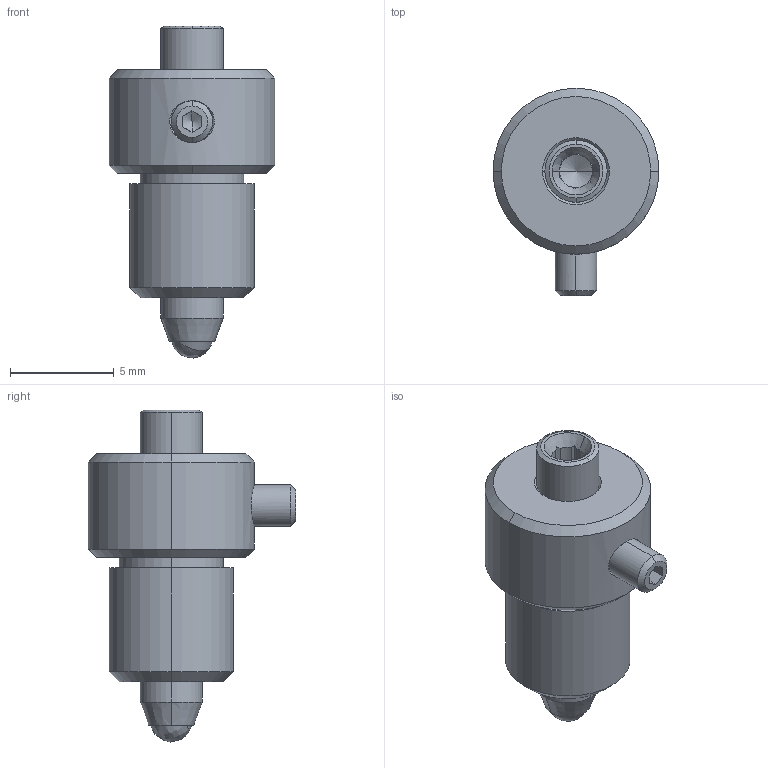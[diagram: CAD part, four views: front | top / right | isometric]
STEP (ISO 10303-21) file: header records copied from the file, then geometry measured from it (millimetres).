
FILE_DESCRIPTION (( 'STEP AP203' ), '1' );
FILE_NAME ('9SH137MN.STEP', '2007-11-15T09:03:08', ( 'STANDA' ), ( '' ), 'SwSTEP 2.0', 'SolidWorks 2003240', '' );
FILE_SCHEMA (( 'CONFIG_CONTROL_DESIGN' ));
Length unit declared in the file: millimetre
Products named in the file (1): 9SH137MN
Bounding box: 8 x 10 x 16.01 mm (x, y, z)
Volume: 431.1 mm3; surface area: 434.3 mm2
Topology: 1 solids, 2 shells, 80 faces, 192 edges, 119 vertices
Faces by surface type: plane 33, cone 24, cylinder 19, bspline 4
Entity records: 2883 total; most frequent: CARTESIAN_POINT 986, DIRECTION 382, ORIENTED_EDGE 372, EDGE_CURVE 186, AXIS2_PLACEMENT_3D 149, VERTEX_POINT 119, EDGE_LOOP 89, LINE 84
